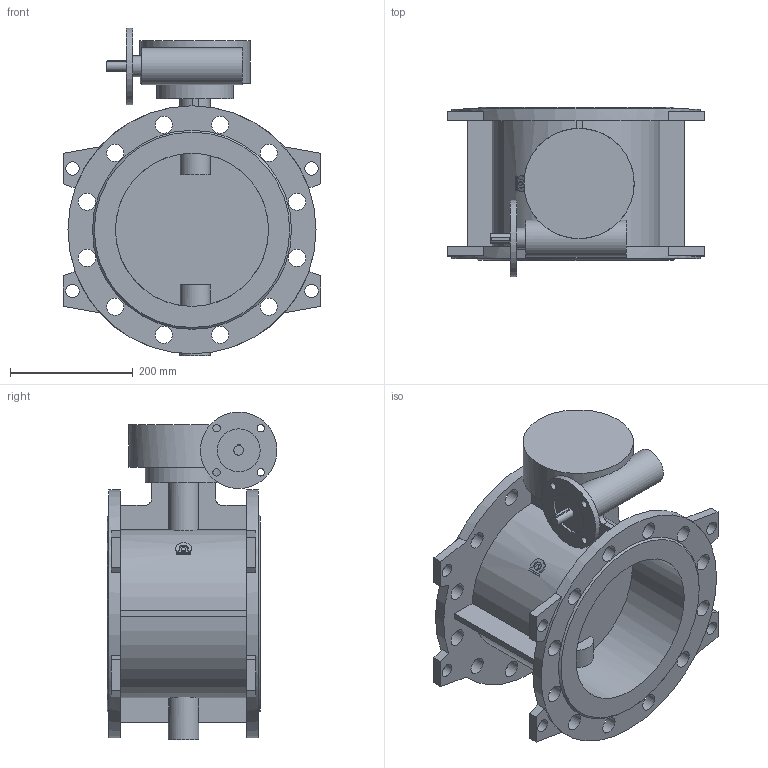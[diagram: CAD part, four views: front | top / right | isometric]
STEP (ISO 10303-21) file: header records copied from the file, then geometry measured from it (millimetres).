
FILE_DESCRIPTION(('STEP AP203'), '1');
FILE_NAME('Çàòâîð 023F.Z DN250 PN16_ð-ð_ôë', '', ('UNSPECIFIED'), ('UNSPECIFIED'), 'ASCON STEP Converter 1.6', 'ASCON Math Kernel', '');
FILE_SCHEMA(('CONFIG_CONTROL_DESIGN'));
Length unit declared in the file: millimetre
Bounding box: 420 x 277.5 x 535.5 mm (x, y, z)
Volume: 9853901.5 mm3; surface area: 1084105.5 mm2
Topology: 1 solids, 1 shells, 170 faces, 433 edges, 288 vertices
Faces by surface type: plane 95, cylinder 73, cone 2
Full cylindrical faces by diameter (mm): 8.3 x4, 12 x8, 16 x1, 22 x8, 28 x24, 34 x1, 50 x1, 60 x1, 70 x1, 125 x2, 180 x1, 250 x2, 405 x2
Entity records: 7534 total; most frequent: CARTESIAN_POINT 1980, DIRECTION 861, ORIENTED_EDGE 746, EDGE_CURVE 373, AXIS2_PLACEMENT_3D 335, EDGE_LOOP 325, VERTEX_POINT 288, FACE_BOUND 214
